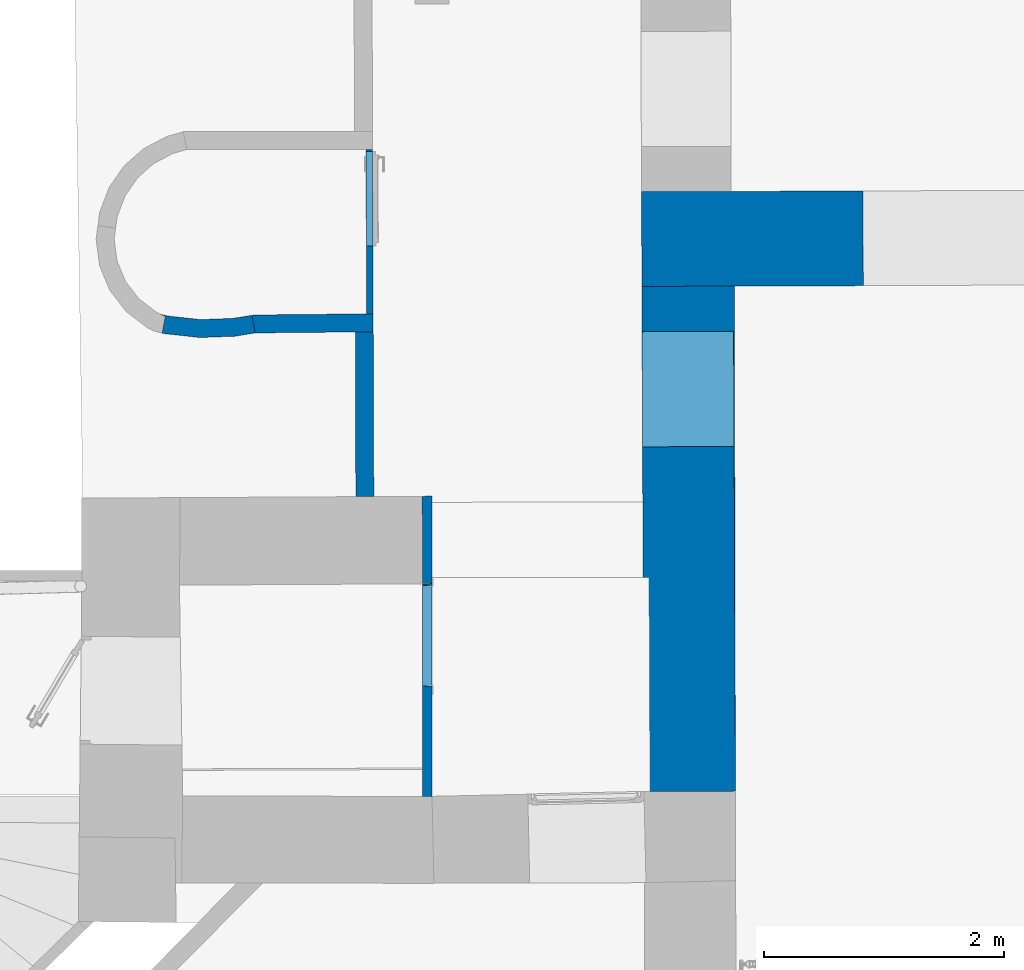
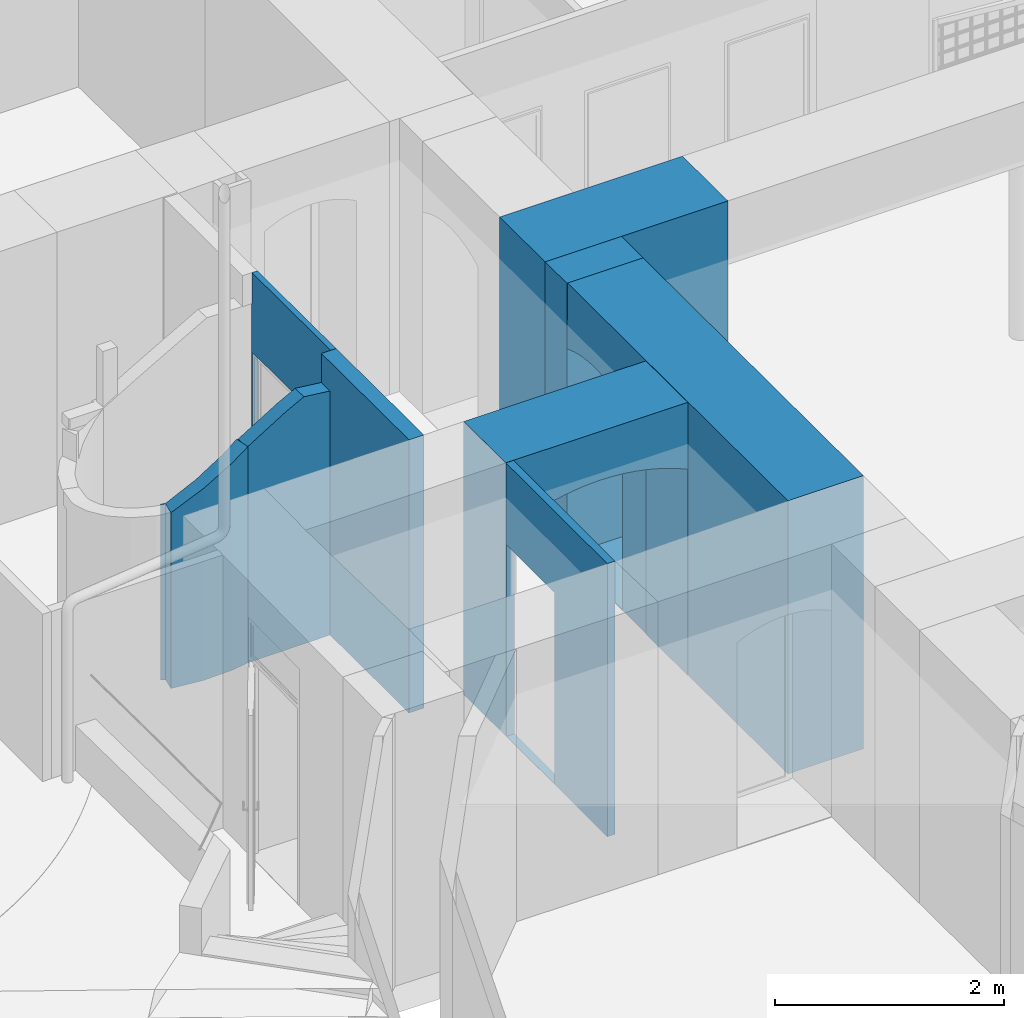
# One storey, part 11 of 133: 9 walls, 4 openings.
"""IFC2X3 building model written with IfcOpenShell, lengths in centimetres."""

from ifc_helpers import new_model, entity, si_unit, converted_unit, point, direction, frame, frame_2d, origin, origin_with_axes, place, context, subcontext, project, spatial, polyline, circle_curve, trimmed, segment, composite_curve, outline, extrude, clip, bounded_halfspace, shape, material, layer, layer_set, layer_usage, type_object, element, save


model = new_model("IFC2X3")

# Units and contexts
model_context = context("Model", 3, precision=0.0001, world=origin(), true_north=direction((0.225632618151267, 0.974212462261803, 0.0)))
body_context = subcontext(model_context, "Body", "Model", "MODEL_VIEW")
footprint_context = subcontext(model_context, "FootPrint", "Model", "MODEL_VIEW")
profile_context = subcontext(model_context, "Profile", "Model", "MODEL_VIEW")
ifc_project = project(units=[si_unit("LENGTHUNIT", "METRE", prefix="CENTI"), si_unit("AREAUNIT", "SQUARE_METRE", prefix="CENTI"), si_unit("VOLUMEUNIT", "CUBIC_METRE", prefix="CENTI"), converted_unit("PLANEANGLEUNIT", "DEGREE", entity("IfcRatioMeasure", 0.0174532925), si_unit("PLANEANGLEUNIT", "RADIAN"), dimensions=[0, 0, 0, 0, 0, 0, 0])], contexts=[model_context])

# Site, building, storey
site_placement = place(None, origin_with_axes())
site = spatial("IfcSite", under=ifc_project, at=site_placement, Name="Default Site", CompositionType="ELEMENT")
building_placement = place(site_placement, origin_with_axes())
building = spatial("IfcBuilding", under=site, at=building_placement, Name="Default Building", CompositionType="ELEMENT")
storey_placement = place(building_placement, frame((0.0, 0.0, -291.400371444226), z_axis=(0.0, 0.0, 1.0), x_axis=(1.0, 0.0, 0.0)))
storey = spatial("IfcBuildingStorey", under=building, at=storey_placement, Name="Rez-de-Jardin", CompositionType="ELEMENT", Elevation=-291.400371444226)

# Wall
ifc_material = material(Name="<aucun>")
ifc_layer_1 = layer(ifc_material, 79.0)
ifc_layer_set_1 = layer_set([ifc_layer_1], Name="default")
ifc_layer_usage_1 = layer_usage(ifc_layer_set_1, "AXIS2", "POSITIVE", -39.5)
wall_type_1 = type_object("IfcWallType", Name="default 790", PredefinedType="NOTDEFINED", material=ifc_layer_set_1)
wall_1_placement = place(storey_placement, frame((-645.696472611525, -64.4791565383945, -1.94511073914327e-11), z_axis=(0.0, 0.0, 1.0), x_axis=(0.999995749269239, 0.00291572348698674, 0.0)))
element("IfcWallStandardCase", 1, at=wall_1_placement, inside=storey, type_object=wall_type_1, material=ifc_layer_usage_1, Name="Enveloppe 53093", context=body_context, shape_type="Clipping", body=[
    clip(clip(extrude(outline(polyline([(-74.0885146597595, 39.5), (-74.0000464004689, -39.5), (110.753814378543, -39.4998249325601), (110.633468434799, 39.5000834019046), (-74.0885146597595, 39.5)])), frame((0.0, 0.0, 8.88178419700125e-14), z_axis=(0.0, 0.0, 1.0), x_axis=(1.0, 0.0, 0.0)), (0.0, 0.0, 1.0), 291.413221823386), bounded_halfspace(frame((110.63889308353, -39.4999999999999, 223.600000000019), z_axis=(0.0, 0.0, 1.0), x_axis=(-6.86663669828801e-05, 0.999999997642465, 0.0)), True, frame((110.63889308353, -39.4999999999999, 223.600000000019), z_axis=(0.0, 0.0, 1.0), x_axis=(1.0, 0.0, 0.0)), polyline([(-8.88178419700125e-14, 0.0), (-0.00542464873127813, 79.0000834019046), (0.114921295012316, 0.000175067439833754), (-8.88178419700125e-14, 0.0)]))), bounded_halfspace(frame((110.563798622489, 39.5000000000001, 223.600000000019), z_axis=(0.0, 0.0, -1.0), x_axis=(1.0, -2.45853684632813e-15, 0.0)), True, frame((110.563798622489, 39.5000000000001, 223.600000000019), z_axis=(0.0, 0.0, 1.0), x_axis=(1.0, 0.0, 0.0)), polyline([(2.59003485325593e-08, -2.27308286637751e-05), (0.0750944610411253, 0.0), (2.59003485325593e-08, -2.27308286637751e-05)]))),
])

# Wall, opening
ifc_layer_2 = layer(ifc_material, 76.0)
ifc_layer_set_2 = layer_set([ifc_layer_2], Name="default")
ifc_layer_usage_2 = layer_usage(ifc_layer_set_2, "AXIS2", "POSITIVE", -38.0)
wall_type_2 = type_object("IfcWallType", Name="default 760", PredefinedType="NOTDEFINED", material=ifc_layer_set_2)
wall_2_placement = place(storey_placement, frame((-679.737268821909, -560.992978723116, -1.94511073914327e-11), z_axis=(0.0, 0.0, 1.0), x_axis=(-0.00403556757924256, 0.999991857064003, 0.0)))
wall_2 = element("IfcWallStandardCase", 2, at=wall_2_placement, inside=storey, type_object=wall_type_2, material=ifc_layer_usage_2, Name="Enveloppe 70947", context=body_context, shape_type="SweptSolid", body=[
    extrude(outline(polyline([(419.164254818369, 38.0000000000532), (209.151641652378, 38.0000000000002), (35.5616699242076, 38.0000000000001), (35.5616699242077, -38.3307665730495), (209.151641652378, -38.6336117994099), (419.164254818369, -38.9999999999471), (419.164254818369, 38.0000000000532)])), frame((0.0, 0.0, 4.44089209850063e-14), z_axis=(0.0, 0.0, 1.0), x_axis=(1.0, 0.0, 0.0)), (0.0, 0.0, 1.0), 291.413221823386),
])
opening_1_placement = place(wall_2_placement, frame((323.102725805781, 0.0, 1.50322433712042), z_axis=(0.0, 0.0, 1.0), x_axis=(1.0, 2.61075883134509e-16, 0.0)))
cartesian_point_1 = entity("IfcCartesianPoint", [4.44089209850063e-14, 0.0, 220.0])
cartesian_point_2 = entity("IfcCartesianPoint", [96.0, 0.0, 220.0])
cartesian_point_3 = entity("IfcCartesianPoint", [96.0000000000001, 38.0000000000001])
element("IfcOpeningElement", 3, at=opening_1_placement, cuts=wall_2, Name="Baie 78627", ObjectType="Opening", shapes=[
    shape(body_context, "Body", "SweptSolid", [extrude(outline(composite_curve([segment(polyline([(4.44089209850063e-14, 220.0), (0.0, 0.0), (96.0, 0.0), (96.0000000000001, 220.0)]), True, "CONTINUOUS"), segment(trimmed(circle_curve(frame_2d((48.0, 101.118342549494), x_axis=(1.0, 0.0)), 128.206273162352), [point((96.0000000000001, 220.0))], [point((4.44089209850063e-14, 220.0))], True, "CARTESIAN"), True, "CONTINUOUS")], self_intersect=False)), frame((0.0, 48.9999999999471, 0.0), z_axis=(0.0, -1.0, 0.0), x_axis=(1.0, 0.0, 0.0)), (0.0, 0.0, 1.0), 96.9999999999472)]),
    shape(profile_context, "Profile", "GeometricCurveSet", [entity("IfcGeometricCurveSet", [entity("IfcCompositeCurve", [entity("IfcCompositeCurveSegment", "CONTINUOUS", True, entity("IfcPolyline", [cartesian_point_1, entity("IfcCartesianPoint", [0.0, 0.0, 0.0]), entity("IfcCartesianPoint", [96.0, 0.0, 0.0]), cartesian_point_2])), entity("IfcCompositeCurveSegment", "CONTINUOUS", True, entity("IfcTrimmedCurve", entity("IfcCircle", entity("IfcAxis2Placement3D", entity("IfcCartesianPoint", [48.0, 0.0, 101.118342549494]), entity("IfcDirection", [0.0, -1.0, 0.0]), entity("IfcDirection", [-1.0, 0.0, 0.0])), 128.206273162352), [cartesian_point_2], [cartesian_point_1], True, "CARTESIAN"))], False)])]),
    shape(footprint_context, "FootPrint", "GeometricCurveSet", [entity("IfcGeometricCurveSet", [entity("IfcPolyline", [cartesian_point_3, entity("IfcCartesianPoint", [-4.44089209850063e-14, 38.0000000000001]), entity("IfcCartesianPoint", [0.0, -38.8324109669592]), entity("IfcCartesianPoint", [96.0000000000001, -38.9998926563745]), cartesian_point_3])])]),
])

# Walls
ifc_layer_3 = layer(ifc_material, 15.0)
ifc_layer_set_3 = layer_set([ifc_layer_3], Name="default")
ifc_layer_usage_3 = layer_usage(ifc_layer_set_3, "AXIS2", "POSITIVE", -7.5)
wall_type_3 = type_object("IfcWallType", Name="default 150", PredefinedType="NOTDEFINED", material=ifc_layer_set_3)
wall_3_placement = place(storey_placement, frame((-950.682900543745, -279.508636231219, -1.94511073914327e-11), z_axis=(0.0, 0.0, 1.0), x_axis=(-0.00350905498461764, 0.999993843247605, 0.0)))
element("IfcWallStandardCase", 4, at=wall_3_placement, inside=storey, type_object=wall_type_3, material=ifc_layer_usage_3, Name="Enveloppe 64484", context=body_context, shape_type="Clipping", body=[
    clip(extrude(outline(polyline([(152.228285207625, 7.50000000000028), (-0.031725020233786, 7.50000000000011), (-8.88178419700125e-14, -7.49999999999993), (152.228285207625, -7.4999999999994), (152.228285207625, 7.50000000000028)])), frame((0.0, 0.0, 8.88178419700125e-14), z_axis=(0.0, 0.0, 1.0), x_axis=(1.0, 0.0, 0.0)), (0.0, 0.0, 1.0), 291.413221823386), bounded_halfspace(frame((137.325950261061, 7.50000000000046, 260.400371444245), z_axis=(0.0, 0.0, 1.0), x_axis=(1.0, -5.02202446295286e-15, 0.0)), True, frame((137.325950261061, 7.50000000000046, 260.400371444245), z_axis=(0.0, 0.0, 1.0), x_axis=(1.0, 0.0, 0.0)), polyline([(2.22044604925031e-14, 1.77635683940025e-13), (14.9023349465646, -1.77635683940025e-13), (14.9023349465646, -14.9999999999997), (0.1000000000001, -15.0000000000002), (2.22044604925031e-14, 1.77635683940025e-13)]))),
])
ifc_layer_usage_4 = layer_usage(ifc_layer_set_3, "AXIS2", "POSITIVE", -7.5)
wall_4_placement = place(storey_placement, frame((-1043.05449148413, -135.554868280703, -1.94511073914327e-11), z_axis=(0.0, 0.0, 1.0), x_axis=(0.999949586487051, 0.0100411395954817, 0.0)))
element("IfcWallStandardCase", 5, at=wall_4_placement, inside=storey, type_object=wall_type_3, material=ifc_layer_usage_4, Name="Enveloppe 52934", context=body_context, shape_type="Clipping", body=[
    clip(clip(clip(clip(clip(clip(clip(clip(extrude(outline(polyline([(-1.80566923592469, 7.22953461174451), (0.994974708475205, -7.5), (99.3190080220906, -7.50000000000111), (99.4176878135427, 7.49999302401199), (0.0, 7.5), (-1.80566923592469, 7.22953461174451)])), frame((0.0, 0.0, 4.44089209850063e-14), z_axis=(0.0, 0.0, 1.0), x_axis=(1.0, 0.0, 0.0)), (0.0, 0.0, 1.0), 263.664280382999), bounded_halfspace(frame((-1.80566923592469, 7.22953461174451, 230.240130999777), z_axis=(0.0, 0.0, -1.0), x_axis=(0.186791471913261, -0.982399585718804, 0.0)), True, frame((-1.80566923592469, 7.22953461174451, 230.240130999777), z_axis=(0.0, 0.0, 1.0), x_axis=(1.0, 0.0, 0.0)), polyline([(0.0, 0.0), (1.80566923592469, -9.49662578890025), (1.80566923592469, 0.270465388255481), (0.0, 0.0)]))), bounded_halfspace(frame((57.8359063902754, -7.50000000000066, 263.664280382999), z_axis=(-0.121862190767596, 1.43136370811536e-15, -0.992547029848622), x_axis=(0.00653219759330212, 0.999978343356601, -0.000802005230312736)), True, frame((57.8359063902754, -7.50000000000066, 263.664280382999), z_axis=(0.0, 0.0, 1.0), x_axis=(1.0, 0.0, 0.0)), polyline([(-1.77635683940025e-13, 0.0), (26.4827815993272, -2.88657986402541e-13), (26.5807666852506, 14.9999999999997), (1.77635683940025e-13, 15.0), (-1.77635683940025e-13, 0.0)]))), bounded_halfspace(frame((93.9168757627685, 7.49999999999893, 260.400371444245), z_axis=(0.0, 0.0, -1.0), x_axis=(-0.00653219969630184, -0.999978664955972, 0.0)), True, frame((93.9168757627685, 7.49999999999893, 260.400371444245), z_axis=(0.0, 0.0, 1.0), x_axis=(1.0, 0.0, 0.0)), polyline([(-9.50085590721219, -0.099997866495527), (5.49882406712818, -0.197980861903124), (5.50011734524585, -4.44089209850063e-14), (0.0, 2.22044604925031e-14), (-0.000257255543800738, -0.0393818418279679), (-6.02900767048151, 8.88178419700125e-14), (-9.50020268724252, 8.88178419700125e-14), (-9.50085590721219, -0.099997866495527)]))), bounded_halfspace(frame((84.4160198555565, 7.4000021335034, 260.400371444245), z_axis=(0.0, 0.0, -1.0), x_axis=(-0.00653219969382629, -0.999978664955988, 0.0)), True, frame((84.4160198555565, 7.4000021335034, 260.400371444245), z_axis=(0.0, 0.0, 1.0), x_axis=(1.0, 0.0, 0.0)), polyline([(-0.0973318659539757, -14.9000021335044), (14.902988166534, -14.9000021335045), (14.9996799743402, -0.0979829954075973), (-1.77635683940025e-13, 0.0), (-0.0973318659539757, -14.9000021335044)]))), bounded_halfspace(frame((87.887868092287, 7.499999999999, 260.400371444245), z_axis=(0.0, 0.0, -1.0), x_axis=(0.999978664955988, -0.00653219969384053, 0.0)), True, frame((87.887868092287, 7.499999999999, 260.400371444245), z_axis=(0.0, 0.0, 1.0), x_axis=(1.0, 0.0, 0.0)), polyline([(0.0, 2.22044604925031e-14), (6.02875041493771, -0.0393818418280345), (6.02900767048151, -4.44089209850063e-14), (0.0, 2.22044604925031e-14)]))), bounded_halfspace(frame((40.0696269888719, 7.49999999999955, 254.479547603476), z_axis=(0.517595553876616, -6.08280786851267e-15, -0.855625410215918), x_axis=(0.185610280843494, -0.976187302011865, 0.112281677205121)), True, frame((40.0696269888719, 7.49999999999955, 254.479547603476), z_axis=(0.0, 0.0, 1.0), x_axis=(1.0, 0.0, 0.0)), polyline([(-40.0696269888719, -9.76709117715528), (-39.0746522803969, -14.9999999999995), (-3.5527136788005e-13, -15.0), (0.0, 0.0), (-40.0696269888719, 4.44089209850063e-13), (-40.0696269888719, -9.76709117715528)]))), bounded_halfspace(frame((48.9527666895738, -7.50000000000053, 259.071913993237), z_axis=(0.459236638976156, -5.20243570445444e-15, -0.888313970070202), x_axis=(-0.888313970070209, 1.21049004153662e-14, -0.459236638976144)), True, frame((48.9527666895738, -7.50000000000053, 259.071913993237), z_axis=(0.0, 0.0, 1.0), x_axis=(1.0, 0.0, 0.0)), polyline([(-8.88313970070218, 8.88178419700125e-14), (-1.77635683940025e-13, 2.22044604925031e-14), (-1.77635683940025e-13, 15.0), (-8.88313970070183, 15.0000000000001), (-8.88313970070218, 8.88178419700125e-14)]))), bounded_halfspace(frame((57.8359063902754, -7.50000000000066, 263.664280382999), z_axis=(0.459236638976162, -5.10962799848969e-15, -0.888313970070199), x_axis=(0.888313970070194, -1.19262238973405e-14, 0.459236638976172)), True, frame((57.8359063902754, -7.50000000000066, 263.664280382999), z_axis=(0.0, 0.0, 1.0), x_axis=(1.0, 0.0, 0.0)), polyline([(-8.88313970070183, 1.55431223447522e-13), (-1.77635683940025e-13, 0.0), (1.77635683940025e-13, 15.0), (-8.88313970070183, 15.0000000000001), (-8.88313970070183, 1.55431223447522e-13)]))),
])
ifc_layer_usage_5 = layer_usage(ifc_layer_set_3, "AXIS2", "POSITIVE", -7.5)
wall_5_placement = place(storey_placement, frame((-1118.39930807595, -135.843361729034, 0.0), z_axis=(0.0, 0.0, 1.0), x_axis=(0.980824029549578, -0.19489541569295, 0.0)))
solid = clip(clip(clip(clip(clip(clip(clip(clip(extrude(outline(polyline([(-4.23738305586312, 7.7813944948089), (0.0, 6.62959978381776), (-1.77635683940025e-13, -7.49999999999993), (2.68564488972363, -7.48187150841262), (31.6204941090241, -4.97098576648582), (59.8814073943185, 1.72609022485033), (76.3531856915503, 7.82989390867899), (70.5962268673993, 21.6740342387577), (55.3664052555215, 16.0304516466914), (29.2363384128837, 9.83832892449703), (2.48314977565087, 7.51676162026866), (0.0, 7.50000000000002), (-4.23738305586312, 7.7813944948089)])), frame((0.0, 0.0, -1.94066984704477e-11), z_axis=(0.0, 0.0, 1.0), x_axis=(1.0, 0.0, 0.0)), (0.0, 0.0, 1.0), 230.890267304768), bounded_halfspace(frame((74.3079316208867, 12.7482518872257, 230.845162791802), z_axis=(0.443663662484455, 0.18967648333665, -0.875891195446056), x_axis=(0.203544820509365, -0.97313137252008, -0.107632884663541)), True, frame((74.3079316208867, 12.7482518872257, 230.845162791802), z_axis=(0.0, 0.0, 1.0), x_axis=(1.0, 0.0, 0.0)), polyline([(-1.77635683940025e-13, 0.0), (1.07135530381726, -5.12206331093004), (2.0452540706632, -4.91835797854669), (-1.77635683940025e-13, 0.0)]))), bounded_halfspace(frame((55.3664052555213, 16.0304516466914, 221.150842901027), z_axis=(0.506061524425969, 0.0814709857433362, -0.858640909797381), x_axis=(0.158943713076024, -0.987287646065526, 0.0)), True, frame((55.3664052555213, 16.0304516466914, 221.150842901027), z_axis=(0.0, 0.0, 1.0), x_axis=(1.0, 0.0, 0.0)), polyline([(-26.1300668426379, -6.19212272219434), (-23.7459111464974, -21.0014374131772), (0.0, 8.88178419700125e-14), (-26.1300668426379, -6.19212272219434)]))), bounded_halfspace(frame((-4.2373830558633, 7.7813944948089, 187.697835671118), z_axis=(0.0, 0.0, -1.0), x_axis=(0.964986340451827, -0.262300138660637, 0.0)), True, frame((-4.2373830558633, 7.7813944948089, 187.697835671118), z_axis=(0.0, 0.0, 1.0), x_axis=(1.0, 0.0, 0.0)), polyline([(-1.77635683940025e-13, 4.44089209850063e-14), (4.23738305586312, -1.15179471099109), (4.23738305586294, -0.28139449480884), (-1.77635683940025e-13, 4.44089209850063e-14)]))), bounded_halfspace(frame((29.2363384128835, 9.83832892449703, 205.162902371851), z_axis=(0.512530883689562, 0.00691963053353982, -0.858640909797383), x_axis=(0.013499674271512, -0.999908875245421, -7.40148683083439e-15)), True, frame((29.2363384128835, 9.83832892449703, 205.162902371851), z_axis=(0.0, 0.0, 1.0), x_axis=(1.0, 0.0, 0.0)), polyline([(-26.753188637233, -2.32156730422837), (-26.5506935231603, -17.3202004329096), (-1.77635683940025e-13, 0.0), (-26.753188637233, -2.32156730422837)]))), bounded_halfspace(frame((2.48314977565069, 7.51676162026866, 189.174961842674), z_axis=(0.511243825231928, 0.0, -0.859435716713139), x_axis=(-9.49240686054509e-14, -1.0, -1.02042532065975e-13)), True, frame((2.48314977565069, 7.51676162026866, 189.174961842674), z_axis=(0.0, 0.0, 1.0), x_axis=(1.0, 0.0, 0.0)), polyline([(-2.48314977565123, -15.0167616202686), (-1.77635683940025e-13, 0.0), (-2.48314977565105, -0.0167616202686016), (-2.48314977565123, -15.0167616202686)]))), bounded_halfspace(frame((2.48314977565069, 7.51676162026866, 189.174961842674), z_axis=(0.481880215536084, 0.0065058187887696, -0.876212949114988), x_axis=(-0.013499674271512, 0.999908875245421, 1.33226762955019e-14)), True, frame((2.48314977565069, 7.51676162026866, 189.174961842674), z_axis=(0.0, 0.0, 1.0), x_axis=(1.0, 0.0, 0.0)), polyline([(-2.48314977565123, -15.0167616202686), (0.202495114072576, -14.9986331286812), (-1.77635683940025e-13, 0.0), (-2.48314977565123, -15.0167616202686)]))), bounded_halfspace(frame((31.6204941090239, -4.97098576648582, 205.162902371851), z_axis=(0.477088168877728, 0.0768065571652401, -0.875492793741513), x_axis=(-0.158943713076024, 0.987287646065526, 0.0)), True, frame((31.6204941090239, -4.97098576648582, 205.162902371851), z_axis=(0.0, 0.0, 1.0), x_axis=(1.0, 0.0, 0.0)), polyline([(-28.9348492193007, -2.51088574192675), (0.0, 4.44089209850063e-14), (-2.38415569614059, 14.8093146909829), (-28.9348492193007, -2.51088574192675)]))), bounded_halfspace(frame((59.8814073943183, 1.72609022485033, 221.150842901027), z_axis=(0.460820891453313, 0.145452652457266, -0.875492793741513), x_axis=(-0.301000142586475, 0.95362409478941, 0.0)), True, frame((59.8814073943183, 1.72609022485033, 221.150842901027), z_axis=(0.0, 0.0, 1.0), x_axis=(1.0, 0.0, 0.0)), polyline([(-28.2609132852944, -6.69707599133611), (-1.77635683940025e-13, 0.0), (-4.51500213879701, 14.3043614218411), (-28.2609132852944, -6.69707599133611)])))
element("IfcWallStandardCase", 6, at=wall_5_placement, inside=storey, type_object=wall_type_3, material=ifc_layer_usage_5, Name="Enveloppe courbe 79037", context=body_context, shape_type="Clipping", body=[
    clip(clip(solid, bounded_halfspace(frame((71.1382572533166, 20.3705778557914, 230.890267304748), z_axis=(0.443663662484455, 0.18967648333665, -0.875891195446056), x_axis=(-0.861218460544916, -0.180136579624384, -0.475240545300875)), True, frame((71.1382572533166, 20.3705778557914, 230.890267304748), z_axis=(0.0, 0.0, 1.0), x_axis=(1.0, 0.0, 0.0)), polyline([(-11.2568498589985, -18.6444876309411), (5.21492843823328, -12.5406839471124), (4.24102967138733, -12.7443892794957), (3.1696743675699, -7.62232596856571), (-1.77635683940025e-13, 4.44089209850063e-14), (-11.2568498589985, -18.6444876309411)]))), bounded_halfspace(frame((71.1382572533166, 20.3705778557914, 230.890267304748), z_axis=(0.488103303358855, 0.154064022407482, -0.859080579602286), x_axis=(0.301000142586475, -0.95362409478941, -6.661338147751e-15)), True, frame((71.1382572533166, 20.3705778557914, 230.890267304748), z_axis=(0.0, 0.0, 1.0), x_axis=(1.0, 0.0, 0.0)), polyline([(-15.7718519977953, -4.34012620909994), (-11.2568498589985, -18.6444876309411), (-1.77635683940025e-13, 4.44089209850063e-14), (-0.542030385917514, 1.30345638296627), (-15.7718519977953, -4.34012620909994)]))),
])
ifc_layer_4 = layer(ifc_material, 74.0)
ifc_layer_set_4 = layer_set([ifc_layer_4], Name="default")
ifc_layer_usage_6 = layer_usage(ifc_layer_set_4, "AXIS2", "POSITIVE", -37.0)
wall_type_4 = type_object("IfcWallType", Name="default 740", PredefinedType="NOTDEFINED", material=ifc_layer_set_4)
wall_6_placement = place(storey_placement, frame((-682.428826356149, -141.836172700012, -1.94511073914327e-11), z_axis=(0.0, 0.0, 1.0), x_axis=(-0.00403556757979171, 0.999991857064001, 0.0)))
element("IfcWallStandardCase", 7, at=wall_6_placement, inside=storey, type_object=wall_type_4, material=ifc_layer_usage_6, Name="Enveloppe 78516", context=body_context, shape_type="SweptSolid", body=[
    extrude(outline(polyline([(37.7910441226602, 37.0000000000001), (6.68354260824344e-12, 37.0), (6.72795152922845e-12, -40.0000000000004), (37.7044663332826, -40.3118564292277), (37.7910441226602, 37.0000000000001)])), frame((0.0, 0.0, 8.88178419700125e-14), z_axis=(0.0, 0.0, 1.0), x_axis=(1.0, 0.0, 0.0)), (0.0, 0.0, 1.0), 291.413221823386),
])

# Wall, opening
ifc_layer_5 = layer(ifc_material, 73.0)
ifc_layer_set_5 = layer_set([ifc_layer_5], Name="default")
ifc_layer_usage_7 = layer_usage(ifc_layer_set_5, "AXIS2", "POSITIVE", -36.5)
wall_type_5 = type_object("IfcWallType", Name="default 730", PredefinedType="NOTDEFINED", material=ifc_layer_set_5)
wall_7_placement = place(storey_placement, frame((-902.264427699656, -315.69440310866, -1.94511073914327e-11), z_axis=(0.0, 0.0, 1.0), x_axis=(0.999998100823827, 0.00194893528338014, 0.0)))
wall_7 = element("IfcWallStandardCase", 8, at=wall_7_placement, inside=storey, type_object=wall_type_5, material=ifc_layer_usage_7, Name="Enveloppe 65369", context=body_context, shape_type="SweptSolid", body=[
    extrude(outline(polyline([(-0.541256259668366, 36.4398960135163), (-0.273191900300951, -36.5), (183.611989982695, -36.5000000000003), (183.459664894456, 36.4999999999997), (3.59946514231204, 36.4999997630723), (3.59937766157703, 36.4551134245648), (-0.541256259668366, 36.4398960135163)])), frame((0.0, 0.0, 8.88178419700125e-14), z_axis=(0.0, 0.0, 1.0), x_axis=(1.0, 0.0, 0.0)), (0.0, 0.0, 1.0), 291.413221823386),
])
opening_2_placement = place(wall_7_placement, frame((7.4994678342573, 5.6843418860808e-14, -1.78079773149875e-13), z_axis=(0.0, 0.0, 1.0), x_axis=(1.0, -2.34989978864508e-15, 0.0)))
cartesian_point_4 = entity("IfcCartesianPoint", [0.0, -4.44089209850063e-14, 220.0])
cartesian_point_5 = entity("IfcCartesianPoint", [175.960197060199, 0.0, 220.0])
cartesian_point_6 = entity("IfcCartesianPoint", [175.960197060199, 36.5])
element("IfcOpeningElement", 9, at=opening_2_placement, cuts=wall_7, Name="Baie 78719", ObjectType="Opening", shapes=[
    shape(body_context, "Body", "SweptSolid", [extrude(outline(composite_curve([segment(polyline([(-1.77635683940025e-13, 220.0), (-1.77635683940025e-13, 0.0), (175.960197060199, 0.0), (175.960197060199, 220.0)]), True, "CONTINUOUS"), segment(trimmed(circle_curve(frame_2d((87.9800985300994, 30.6680609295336), x_axis=(1.0, 0.0)), 208.775192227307), [point((175.960197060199, 220.0))], [point((-1.77635683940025e-13, 220.0))], True, "CARTESIAN"), True, "CONTINUOUS")], self_intersect=False)), frame((0.0, 46.5, 0.0), z_axis=(0.0, -1.0, 0.0), x_axis=(1.0, 0.0, 0.0)), (0.0, 0.0, 1.0), 93.0)]),
    shape(profile_context, "Profile", "GeometricCurveSet", [entity("IfcGeometricCurveSet", [entity("IfcCompositeCurve", [entity("IfcCompositeCurveSegment", "CONTINUOUS", True, entity("IfcPolyline", [cartesian_point_4, entity("IfcCartesianPoint", [0.0, -4.44089209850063e-14, 0.0]), entity("IfcCartesianPoint", [175.960197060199, 0.0, 0.0]), cartesian_point_5])), entity("IfcCompositeCurveSegment", "CONTINUOUS", True, entity("IfcTrimmedCurve", entity("IfcCircle", entity("IfcAxis2Placement3D", entity("IfcCartesianPoint", [87.9800985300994, -4.44089209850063e-14, 30.6680609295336]), entity("IfcDirection", [2.52380491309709e-16, -1.0, -1.14201364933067e-15]), entity("IfcDirection", [-1.0, -2.52380491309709e-16, 0.0])), 208.775192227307), [cartesian_point_5], [cartesian_point_4], True, "CARTESIAN"))], False)])]),
    shape(footprint_context, "FootPrint", "GeometricCurveSet", [entity("IfcGeometricCurveSet", [entity("IfcPolyline", [cartesian_point_6, entity("IfcCartesianPoint", [-1.77635683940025e-13, 36.4999999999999]), entity("IfcCartesianPoint", [0.0, -36.5000000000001]), entity("IfcCartesianPoint", [175.960197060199, -36.5]), cartesian_point_6])])]),
])

ifc_layer_6 = layer(ifc_material, 7.8)
ifc_layer_set_6 = layer_set([ifc_layer_6], Name="default")
ifc_layer_usage_8 = layer_usage(ifc_layer_set_6, "AXIS2", "POSITIVE", -3.9)
wall_type_6 = type_object("IfcWallType", Name="default 78", PredefinedType="NOTDEFINED", material=ifc_layer_set_6)
wall_8_placement = place(storey_placement, frame((-898.559055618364, -529.547125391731, -1.94511073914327e-11), z_axis=(0.0, 0.0, 1.0), x_axis=(-4.00020276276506e-05, 0.999999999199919, 0.0)))
wall_8 = element("IfcWallStandardCase", 10, at=wall_8_placement, inside=storey, type_object=wall_type_6, material=ifc_layer_usage_8, Name="Enveloppe 65396", context=body_context, shape_type="SweptSolid", body=[
    extrude(outline(polyline([(-0.0151260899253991, 3.89999999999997), (-0.0239484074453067, -2.01595838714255), (0.0180100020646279, -3.89999999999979), (177.336360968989, -3.89999999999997), (177.292804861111, 3.90000000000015), (-0.0151260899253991, 3.89999999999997)])), frame((0.0, 0.0, 4.44089209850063e-14), z_axis=(0.0, 0.0, 1.0), x_axis=(1.0, 0.0, 0.0)), (0.0, 0.0, 1.0), 291.413221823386),
])
opening_3_placement = place(wall_8_placement, frame((91.9704738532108, -2.27373675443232e-13, 0.546044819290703), z_axis=(0.0, 0.0, 1.0), x_axis=(1.0, -6.00614122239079e-16, 0.0)))
cartesian_point_7 = entity("IfcCartesianPoint", [0.0, 1.77635683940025e-13, 204.0])
cartesian_point_8 = entity("IfcCartesianPoint", [83.9999999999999, 3.90000000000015])
element("IfcOpeningElement", 11, at=opening_3_placement, cuts=wall_8, Name="4294966557_11", ObjectType="Opening", shapes=[
    shape(body_context, "Body", "SweptSolid", [extrude(outline(polyline([(-8.88178419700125e-14, 204.0), (-8.88178419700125e-14, 0.0), (83.9999999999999, 0.0), (83.9999999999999, 204.0), (-8.88178419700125e-14, 204.0)])), frame((0.0, 13.9, 0.0), z_axis=(0.0, -1.0, 0.0), x_axis=(1.0, 0.0, 0.0)), (0.0, 0.0, 1.0), 27.8)]),
    shape(profile_context, "Profile", "GeometricCurveSet", [entity("IfcGeometricCurveSet", [entity("IfcPolyline", [cartesian_point_7, entity("IfcCartesianPoint", [0.0, 1.77635683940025e-13, 0.0]), entity("IfcCartesianPoint", [84.0, 1.77635683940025e-13, 0.0]), entity("IfcCartesianPoint", [84.0, 1.77635683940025e-13, 204.0]), cartesian_point_7])])]),
    shape(footprint_context, "FootPrint", "GeometricCurveSet", [entity("IfcGeometricCurveSet", [entity("IfcPolyline", [cartesian_point_8, entity("IfcCartesianPoint", [-8.88178419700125e-14, 3.90000000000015]), entity("IfcCartesianPoint", [-8.88178419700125e-14, -3.89999999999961]), entity("IfcCartesianPoint", [84.0, -3.89999999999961]), cartesian_point_8])])]),
])

ifc_layer_7 = layer(ifc_material, 5.5)
ifc_layer_set_7 = layer_set([ifc_layer_7], Name="default")
ifc_layer_usage_9 = layer_usage(ifc_layer_set_7, "AXIS2", "POSITIVE", -2.75)
wall_type_7 = type_object("IfcWallType", Name="default 55", PredefinedType="NOTDEFINED", material=ifc_layer_set_7)
wall_9_placement = place(storey_placement, frame((-946.46753768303, -127.141946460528, -1.94511073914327e-11), z_axis=(0.0, 0.0, 1.0), x_axis=(-0.00350905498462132, 0.999993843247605, 0.0)))
wall_9 = element("IfcWallStandardCase", 12, at=wall_9_placement, inside=storey, type_object=wall_type_7, material=ifc_layer_usage_9, Name="Enveloppe 52922", context=body_context, shape_type="Clipping", body=[
    clip(clip(clip(extrude(outline(polyline([(-0.122674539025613, 12.25), (-0.122674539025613, -2.75000000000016), (137.179789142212, -2.75087247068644), (137.197734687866, 2.74906455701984), (1.33226762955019e-13, 2.74999999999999), (-1.51054875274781e-06, 12.2495695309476), (-0.122674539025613, 12.25)])), frame((0.0, 0.0, 8.88178419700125e-14), z_axis=(0.0, 0.0, 1.0), x_axis=(1.0, 0.0, 0.0)), (0.0, 0.0, 1.0), 291.413221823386), bounded_halfspace(frame((-0.02267453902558, 12.25, 260.400371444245), z_axis=(0.0, 0.0, 1.0), x_axis=(1.0, -3.4373706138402e-12, 0.0)), True, frame((-0.02267453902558, 12.25, 260.400371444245), z_axis=(0.0, 0.0, 1.0), x_axis=(1.0, 0.0, 0.0)), polyline([(-2.22044604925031e-14, 0.0), (0.0226745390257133, -3.5527136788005e-13), (0.0226745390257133, -3.47112095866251), (-2.22044604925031e-14, 0.0)]))), bounded_halfspace(frame((-0.122674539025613, 12.25, 260.400371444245), z_axis=(0.0, 0.0, 1.0), x_axis=(1.0, -2.59284781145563e-13, 0.0)), True, frame((-0.122674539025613, 12.25, 260.400371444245), z_axis=(0.0, 0.0, 1.0), x_axis=(1.0, 0.0, 0.0)), polyline([(-2.22044604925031e-14, -15.0000000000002), (-2.22044604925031e-14, 0.0), (0.100000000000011, 0.0), (0.122674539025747, -3.47112095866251), (0.122674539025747, -9.50000000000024), (0.162057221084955, -9.50000000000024), (0.197985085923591, -15.0000000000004), (-2.22044604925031e-14, -15.0000000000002)]))), bounded_halfspace(frame((137.197737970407, 2.74999999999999, 258.410402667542), z_axis=(0.0, 0.0, -1.0), x_axis=(-1.0, 9.42509958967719e-14, 0.0)), True, frame((137.197737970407, 2.74999999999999, 258.410402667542), z_axis=(0.0, 0.0, 1.0), x_axis=(1.0, 0.0, 0.0)), polyline([(-0.266581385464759, -5.50000000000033), (-0.0179457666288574, -5.50000000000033), (2.22044604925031e-14, 0.0), (-0.266581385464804, 0.0), (-0.266581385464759, -5.50000000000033)]))),
])
opening_4_placement = place(wall_9_placement, frame((56.6124837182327, 1.13686837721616e-13, 0.601514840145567), z_axis=(0.0, 0.0, 1.0), x_axis=(-1.0, 5.49907341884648e-16, 0.0)))
cartesian_point_9 = entity("IfcCartesianPoint", [-2.22044604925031e-14, 0.0, 206.001339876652])
cartesian_point_10 = entity("IfcCartesianPoint", [-79.0044043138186, -2.75000000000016])
element("IfcOpeningElement", 13, at=opening_4_placement, cuts=wall_9, Name="4294966330_11", ObjectType="Opening", shapes=[
    shape(body_context, "Body", "SweptSolid", [extrude(outline(polyline([(2.22044604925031e-14, 206.001339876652), (0.0, 0.0), (79.0044043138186, 0.0), (79.0044043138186, 206.001339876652), (2.22044604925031e-14, 206.001339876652)])), frame((0.0, -12.75, 0.0), z_axis=(0.0, 1.0, 0.0), x_axis=(-1.0, 0.0, 0.0)), (0.0, 0.0, 1.0), 25.5)]),
    shape(profile_context, "Profile", "GeometricCurveSet", [entity("IfcGeometricCurveSet", [entity("IfcPolyline", [cartesian_point_9, entity("IfcCartesianPoint", [0.0, 0.0, 0.0]), entity("IfcCartesianPoint", [-79.0044043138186, 0.0, 0.0]), entity("IfcCartesianPoint", [-79.0044043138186, 0.0, 206.001339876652]), cartesian_point_9])])]),
    shape(footprint_context, "FootPrint", "GeometricCurveSet", [entity("IfcGeometricCurveSet", [entity("IfcPolyline", [cartesian_point_10, entity("IfcCartesianPoint", [0.0, -2.75000000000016]), entity("IfcCartesianPoint", [0.0, 2.75000000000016]), entity("IfcCartesianPoint", [-79.0044043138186, 2.74999999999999]), cartesian_point_10])])]),
])

save(model, "model.ifc")
